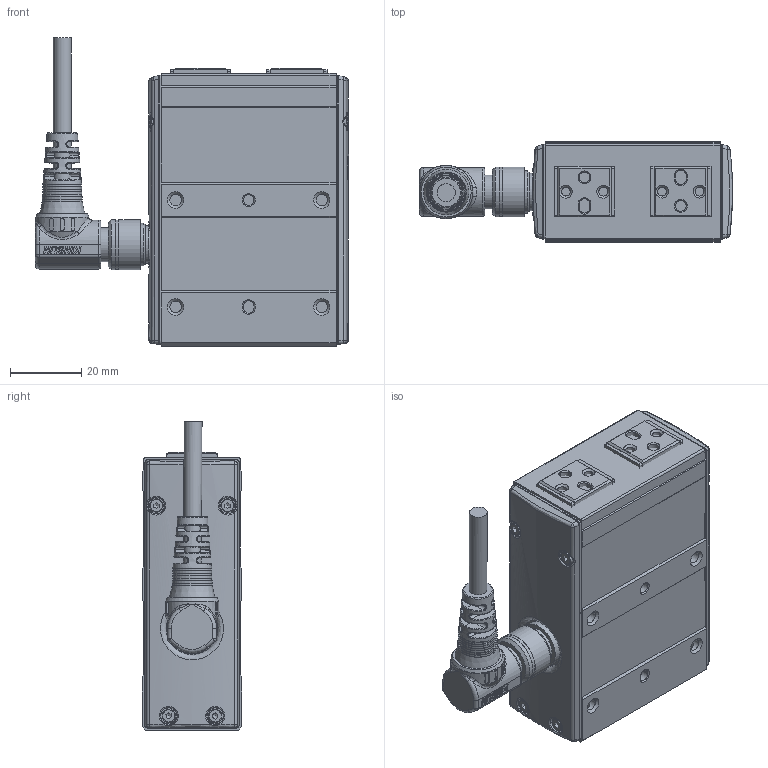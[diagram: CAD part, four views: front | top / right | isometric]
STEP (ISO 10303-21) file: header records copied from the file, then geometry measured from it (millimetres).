
FILE_DESCRIPTION(/* description */ (''),/* implementation_level */ '2;1');
FILE_NAME(/* name */ 'D:\2025.02.25 帶電匯整給泊舟\CHZ2-S10-WM.stp',/* time_stamp */ '2025-02-26T10:14:46+08:00',/* author */ ('T10033'),/* organization */ (''),/* preprocessor_version */ 'ST-DEVELOPER v18.1',/* originating_system */ 'Autodesk Inventor 2020',/* authorisation */ '');
FILE_SCHEMA (('CONFIG_CONTROL_DESIGN'));
Products named in the file (6): CHZ2-S10_已確認; 11003-001130_珠溝研磨(單顆); 12008-000058; 慶陞金屬頭; 7 32T634TSSE3R_Shrinkwrap_1; M12-14PIN 線端90度接頭-05中繼線
Assembly tree (9 placements, depth 2):
  CHZ2-S10_已確認
    11003-001130_珠溝研磨(單顆)  x2
    12008-000058  x4
    慶陞金屬頭
    7 32T634TSSE3R_Shrinkwrap_1
    M12-14PIN 線端90度接頭-05中繼線
Bounding box: 87.8 x 28 x 86.51 mm (x, y, z)
Volume: 118673.5 mm3; surface area: 37638.5 mm2
Topology: 35 solids, 39 shells, 2204 faces, 6015 edges, 3980 vertices
Faces by surface type: plane 1080, cylinder 492, cone 344, bspline 166, torus 102, sphere 20
Full cylindrical faces by diameter (mm): 0.6 x14, 0.65 x14, 1 x18, 1.567 x8, 2 x8, 2.013 x8, 2.459 x6, 3 x7, 3.242 x12, 3.8 x16, 4 x2, 5 x1, 5.5 x4, 6.647 x2, 8 x3, 8.9 x1, 9.5 x2, 9.6 x1, 10.5 x2, 10.9 x1, 11 x2, 11.2 x1, 11.25 x1, 12 x1, 13 x1, 13.8 x1, 14 x2, 14.4 x1
Entity records: 91367 total; most frequent: CARTESIAN_POINT 36014, ORIENTED_EDGE 11264, DIRECTION 11131, EDGE_CURVE 5640, AXIS2_PLACEMENT_3D 4233, VERTEX_POINT 3753, LINE 2665, VECTOR 2665
